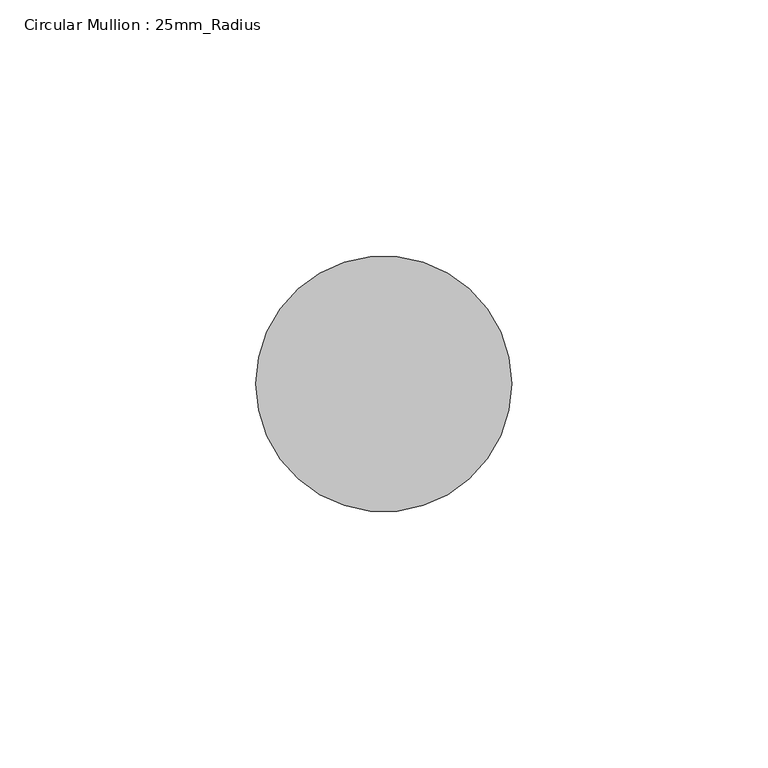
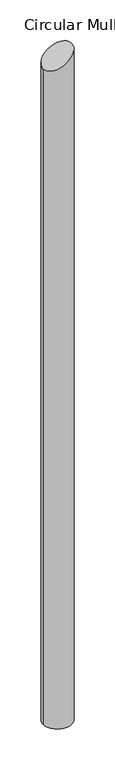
"""IFC4 building model written with IfcOpenShell, lengths in millimetres: member geometry, Circular Mullion : 25mm_Radius."""

from ifc_helpers import new_model, si_unit, frame, origin, place, context, project, spatial, circle_curve, ellipse_curve, source, transform, mapped, element, save
from ifc_brep_helpers import plane_surface, cylinder_surface, advanced_brep


def circular_mullion_25mm_radius_aa2c01b6(model_context):
    return source(origin(), model_context, "Body", "AdvancedBrep", [
        advanced_brep(
        [(-50.0, 0.0, -30.10109), (0.0, 0.0, 0.0), (0.0, 0.0, -1236.0236817), (-50.0, 0.0, -1236.0236817)],
        [
            (0, 1, ellipse_curve(frame((-25.0, 0.0, -15.050545), z_axis=(0.515768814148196, 0.0, -0.8567278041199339), x_axis=(0.8567278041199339, 0.0, 0.5157688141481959)), 29.1807968, 25.0)),
            (1, 2),
            (2, 3, circle_curve(frame((-25.0, 0.0, -1236.0236817), z_axis=(0.0, 0.0, 1.0), x_axis=(1.0, 0.0, 0.0)), 25.0)),
            (3, 0),
            (1, 0, ellipse_curve(frame((-25.0, 0.0, -15.050545), z_axis=(0.515768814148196, 0.0, -0.8567278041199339), x_axis=(0.8567278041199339, 0.0, 0.5157688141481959)), 29.1807968, 25.0)),
            (3, 2, circle_curve(frame((-25.0, 0.0, -1236.0236817), z_axis=(0.0, 0.0, 1.0), x_axis=(1.0, 0.0, 0.0)), 25.0)),
        ],
        [
            cylinder_surface(frame((-25.0, 0.0, 0.0), z_axis=(0.0, 0.0, 1.0), x_axis=(1.0, 0.0, 0.0)), 25.0),
            plane_surface(frame((0.0, -304.8, 0.0), z_axis=(-0.515768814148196, 0.0, 0.8567278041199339), x_axis=(-0.8567278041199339, 0.0, -0.515768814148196))),
            plane_surface(frame((-304.8, 0.0, -1236.0236817), z_axis=(0.0, 0.0, -1.0), x_axis=(0.0, 1.0, 0.0))),
        ],
        [
            (0, [[1, 2, 3, 4]]),
            (0, [[5, -4, 6, -2]]),
            (1, [[-1, -5]]),
            (2, [[-6, -3]]),
        ],
    ),
    ])


if __name__ == "__main__":
    model = new_model("IFC4")
    model_context = context("Model", 3, world=origin())
    ifc_project = project(units=[si_unit("LENGTHUNIT", "METRE", prefix="MILLI")], contexts=[model_context])
    site = spatial("IfcSite", under=ifc_project)
    building = spatial("IfcBuilding", under=site)
    placement = place(None, origin())
    circular_mullion_25mm_radius_shape = circular_mullion_25mm_radius_aa2c01b6(model_context)
    element("IfcMember", 1, ObjectType="Circular Mullion : 25mm_Radius", at=placement, inside=building, context=model_context, shape_type="MappedRepresentation", body=[
        mapped(circular_mullion_25mm_radius_shape, transform((0.0, 0.0, 0.0), x_axis=(1.0, 0.0, 0.0), y_axis=(0.0, 1.0, 0.0), z_axis=(0.0, 0.0, 1.0))),
    ])
    save(model, "model.ifc")
